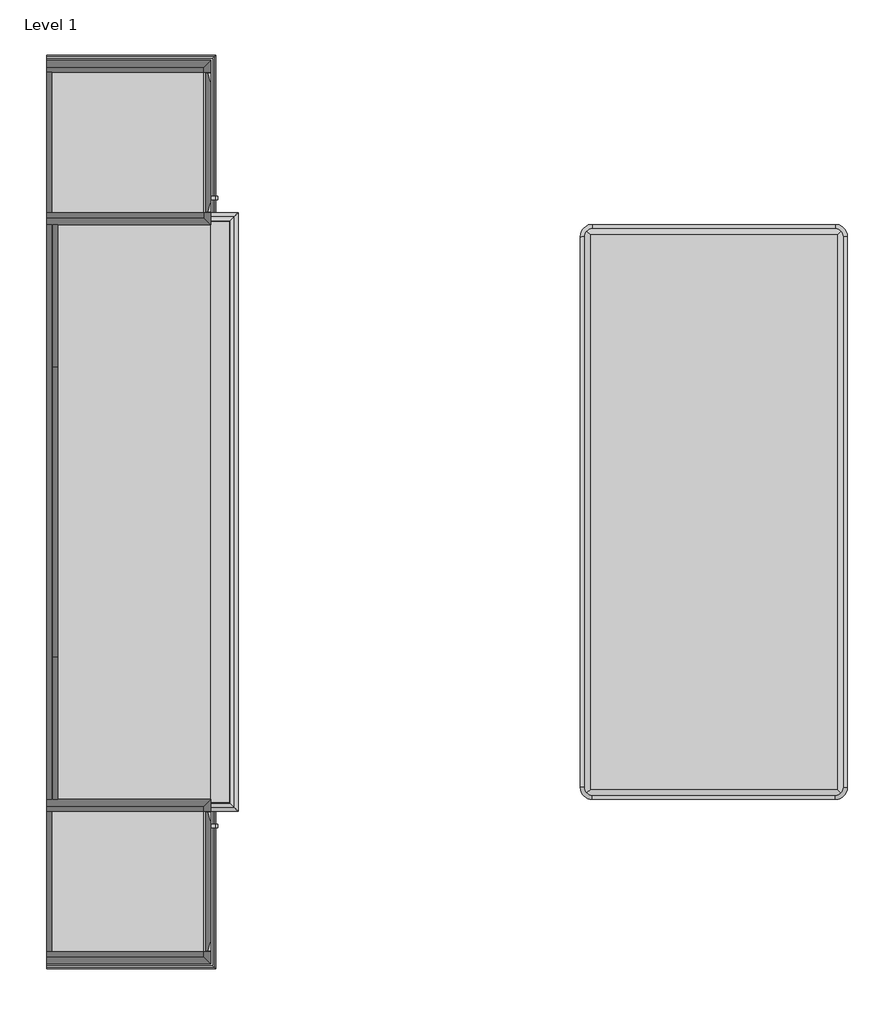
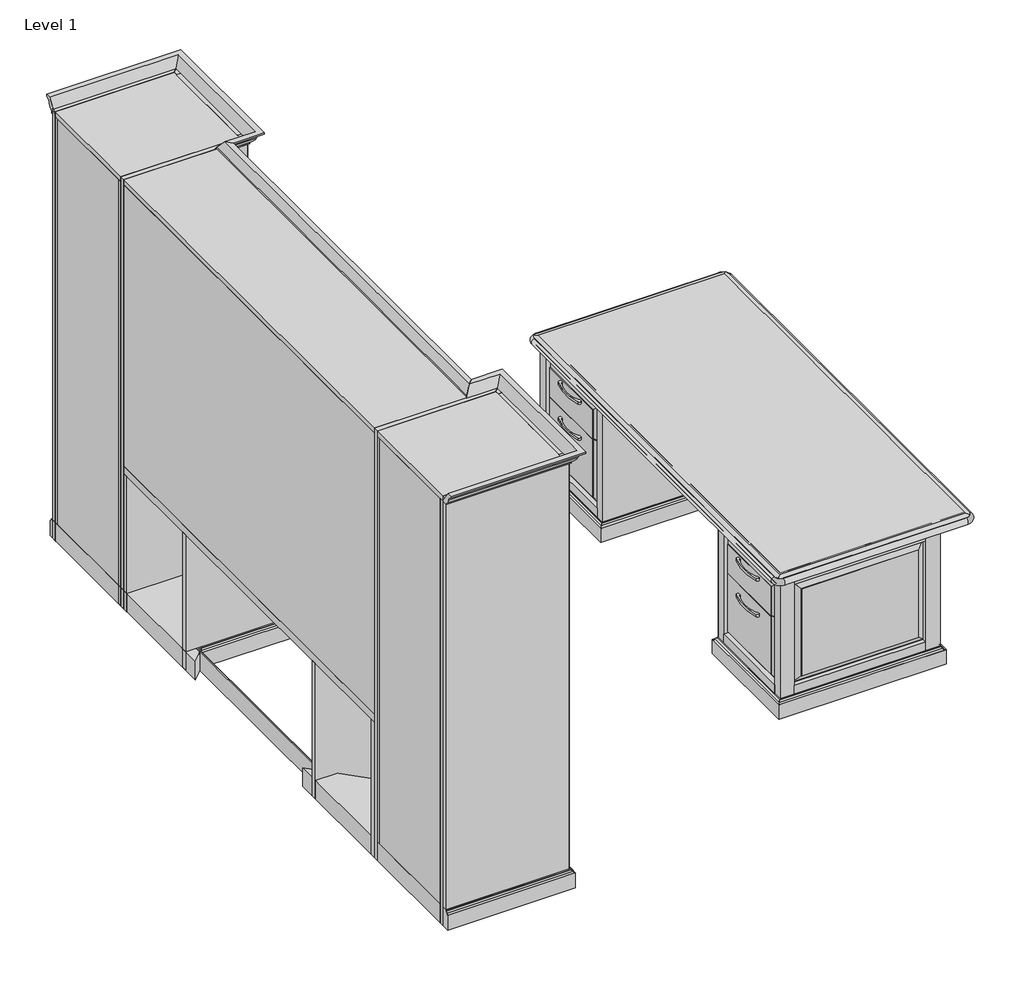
# One storey: 2 proxies.
"""IFC4 building model written with IfcOpenShell, lengths in millimetres."""

from ifc_helpers import new_model, si_unit, origin, place, context, project, spatial, transform, mapped, element, save
from components import generic_models_2e247f11, generic_models_5e41b02c, generic_models_5eb5989c, generic_models_cc090cf4

model = new_model("IFC4")

# Units and contexts
model_context = context("Model", 3, world=origin())
ifc_project = project(units=[si_unit("LENGTHUNIT", "METRE", prefix="MILLI")], contexts=[model_context])

# Site, building, storey
site = spatial("IfcSite", under=ifc_project)
building = spatial("IfcBuilding", under=site)
storey = spatial("IfcBuildingStorey", under=building, Name="Level 1", Elevation=0.0)

# Proxies
placement = place(None, origin())
generic_models_shape = generic_models_2e247f11(model_context)
generic_models_2_shape = generic_models_5e41b02c(model_context)
element("IfcBuildingElementProxy", 1, Name="CCN^BRIGHTON_39x84 DESK-PARTS SOLID", ObjectType="CCN^BRIGHTON_39x84 DESK-PARTS SOLID", at=placement, inside=storey, context=model_context, shape_type="MappedRepresentation", body=[
    mapped(generic_models_shape, transform((2914.65, -1301.75, 9.525), x_axis=(0.0, -1.0, 0.0), y_axis=(0.0, 0.0, 1.0), z_axis=(-1.0, 0.0, 0.0))),
    mapped(generic_models_2_shape, transform((2914.65, -1301.75, 9.525), x_axis=(0.0, -1.0, 0.0), y_axis=(0.0, 0.0, 1.0), z_axis=(-1.0, 0.0, 0.0))),
])
generic_models_3_shape = generic_models_5eb5989c(model_context)
generic_models_4_shape = generic_models_cc090cf4(model_context)
element("IfcBuildingElementProxy", 2, Name="CCN^BRIGHTON_L2-A STRAIGHT WALL-SOLID ASSEMBLY", ObjectType="CCN^BRIGHTON_L2-A STRAIGHT WALL-SOLID ASSEMBLY", at=placement, inside=storey, context=model_context, shape_type="MappedRepresentation", body=[
    mapped(generic_models_3_shape, transform((286.0636945, -1975.0310416, 1733.6782659), x_axis=(0.0, 1.0, 0.0), y_axis=(0.0, 0.0, 1.0), z_axis=(1.0, 0.0, 0.0))),
    mapped(generic_models_4_shape, transform((286.0636945, -1975.0310416, 1733.6782659), x_axis=(0.0, 1.0, 0.0), y_axis=(0.0, 0.0, 1.0), z_axis=(1.0, 0.0, 0.0))),
])

save(model, "model.ifc")
